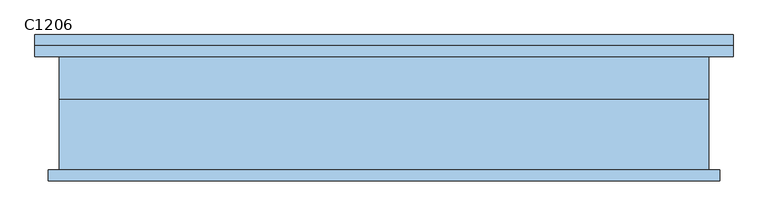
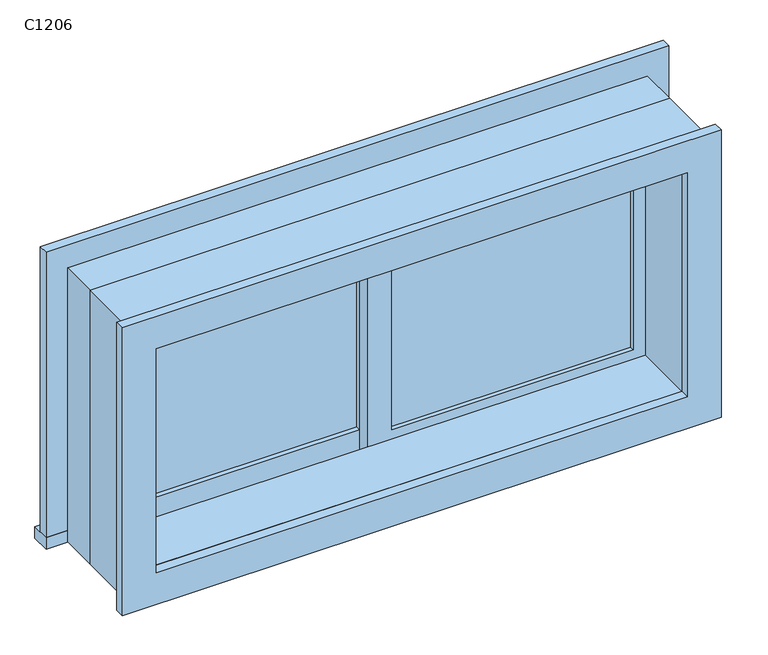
"""IFC4 building model written with IfcOpenShell, lengths in millimetres: window geometry, 推拉窗5 - 带贴面 : C1206."""

from ifc_helpers import new_model, si_unit, frame, origin, place, context, project, spatial, polyline, outline, extrude, source, transform, mapped, element, save


def c1206_2babd59b(model_context):
    return source(origin(), model_context, "Body", "SweptSolid", [
        extrude(outline(polyline([(-515.475, 8.1265625), (-15.475, 8.1265625), (-15.475, -1.8734375), (-515.475, -1.8734375), (-515.475, 8.1265625)])), frame((0.0, 0.0, 980.0), z_axis=(0.0, 0.0, 1.0), x_axis=(1.0, 0.0, 0.0)), (0.0, 0.0, 1.0), 450.0),
        extrude(outline(polyline([(34.525, -21.8734375), (534.525, -21.8734375), (534.525, -31.8734375), (34.525, -31.8734375), (34.525, -21.8734375)])), frame((0.0, 0.0, 980.0), z_axis=(0.0, 0.0, 1.0), x_axis=(1.0, 0.0, 0.0)), (0.0, 0.0, 1.0), 450.0),
        extrude(outline(polyline([(1505.0, -590.475), (905.0, -590.475), (905.0, 609.525), (1505.0, 609.525), (1505.0, -590.475)]), holes=[polyline([(1450.0, 559.525), (960.0, 559.525), (960.0, -540.475), (1450.0, -540.475), (1450.0, 559.525)])]), frame((0.0, -171.8734375, 0.0), z_axis=(0.0, 1.0, 0.0), x_axis=(0.0, 0.0, 1.0)), (0.0, 0.0, 1.0), 130.0),
        extrude(outline(polyline([(930.0, 34.525), (1480.0, 34.525), (1480.0, -565.475), (930.0, -565.475), (930.0, 34.525)]), holes=[polyline([(980.0, -15.475), (980.0, -515.475), (1430.0, -515.475), (1430.0, -15.475), (980.0, -15.475)])]), frame((0.0, -11.8734375, 0.0), z_axis=(0.0, 1.0, 0.0), x_axis=(0.0, 0.0, 1.0)), (0.0, 0.0, 1.0), 30.0),
        extrude(outline(polyline([(1480.0, -15.475), (930.0, -15.475), (930.0, 584.525), (1480.0, 584.525), (1480.0, -15.475)]), holes=[polyline([(1430.0, 34.525), (1430.0, 534.525), (980.0, 534.525), (980.0, 34.525), (1430.0, 34.525)])]), frame((0.0, -41.8734375, 0.0), z_axis=(0.0, 1.0, 0.0), x_axis=(0.0, 0.0, 1.0)), (0.0, 0.0, 1.0), 30.0),
        extrude(outline(polyline([(1505.0, -590.475), (905.0, -590.475), (905.0, 609.525), (1505.0, 609.525), (1505.0, -590.475)]), holes=[polyline([(930.0, -565.475), (1480.0, -565.475), (1480.0, 584.525), (930.0, 584.525), (930.0, -565.475)])]), frame((0.0, -41.8734375, 0.0), z_axis=(0.0, 1.0, 0.0), x_axis=(0.0, 0.0, 1.0)), (0.0, 0.0, 1.0), 80.0),
        extrude(outline(polyline([(1520.0, -610.475), (890.0, -610.475), (890.0, 629.525), (1520.0, 629.525), (1520.0, -610.475)]), holes=[polyline([(960.0, 559.525), (960.0, -540.475), (1450.0, -540.475), (1450.0, 559.525), (960.0, 559.525)])]), frame((0.0, -191.8734375, 0.0), z_axis=(0.0, 1.0, 0.0), x_axis=(0.0, 0.0, 1.0)), (0.0, 0.0, 1.0), 20.0),
        extrude(outline(polyline([(-635.475, 78.1265625), (654.525, 78.1265625), (654.525, 38.1265625), (-635.475, 38.1265625), (-635.475, 78.1265625)])), frame((0.0, 0.0, 905.0), z_axis=(0.0, 0.0, 1.0), x_axis=(1.0, 0.0, 0.0)), (0.0, 0.0, 1.0), 25.0),
        extrude(outline(polyline([(930.0, 654.525), (1555.0, 654.525), (1555.0, -635.475), (930.0, -635.475), (930.0, -565.475), (1480.0, -565.475), (1480.0, 584.525), (930.0, 584.525), (930.0, 654.525)])), frame((0.0, 38.1265625, 0.0), z_axis=(0.0, 1.0, 0.0), x_axis=(0.0, 0.0, 1.0)), (0.0, 0.0, 1.0), 20.0),
    ])


if __name__ == "__main__":
    model = new_model("IFC4")
    model_context = context("Model", 3, world=origin())
    ifc_project = project(units=[si_unit("LENGTHUNIT", "METRE", prefix="MILLI")], contexts=[model_context])
    site = spatial("IfcSite", under=ifc_project)
    building = spatial("IfcBuilding", under=site)
    placement = place(None, origin())
    c1206_shape = c1206_2babd59b(model_context)
    element("IfcWindow", 1, ObjectType="推拉窗5 - 带贴面 : C1206", at=placement, inside=building, context=model_context, shape_type="MappedRepresentation", body=[
        mapped(c1206_shape, transform((0.0, 0.0, 0.0), x_axis=(1.0, 0.0, 0.0), y_axis=(0.0, 1.0, 0.0), z_axis=(0.0, 0.0, 1.0))),
    ])
    save(model, "model.ifc")
